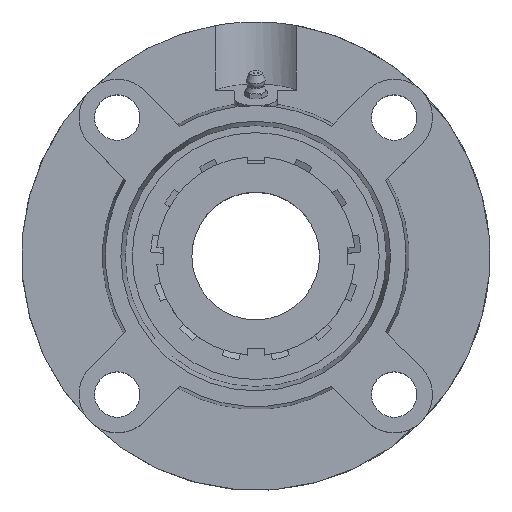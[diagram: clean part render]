
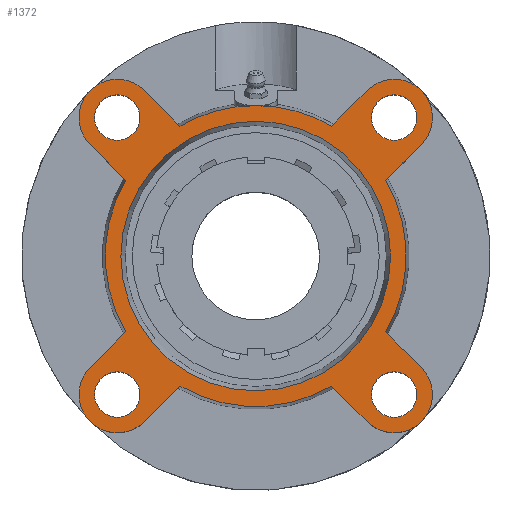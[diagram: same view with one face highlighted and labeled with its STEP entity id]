
A CAD part, top view. The second image highlights one B-rep face of the part: STEP entity #1372.
In plain terms, the highlighted planar face has unit normal (0, 0, 1).
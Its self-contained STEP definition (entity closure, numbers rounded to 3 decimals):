
#181=CARTESIAN_POINT('',(-40.79,-48.79,15.));
#182=VERTEX_POINT('',#181);
#183=CARTESIAN_POINT('',(-48.79,-48.79,15.0));
#184=DIRECTION('',(0.0,0.0,-1.0));
#185=DIRECTION('',(1.0,0.0,0.0));
#186=AXIS2_PLACEMENT_3D('',#183,#184,#185);
#187=CIRCLE('',#186,8.0);
#188=EDGE_CURVE('',#182,#182,#187,.T.);
#209=CARTESIAN_POINT('',(-40.79,48.79,15.));
#210=VERTEX_POINT('',#209);
#211=CARTESIAN_POINT('',(-48.79,48.79,15.));
#212=DIRECTION('',(0.0,0.0,-1.0));
#213=DIRECTION('',(1.0,0.0,0.0));
#214=AXIS2_PLACEMENT_3D('',#211,#212,#213);
#215=CIRCLE('',#214,8.0);
#216=EDGE_CURVE('',#210,#210,#215,.T.);
#237=CARTESIAN_POINT('',(56.79,48.79,15.));
#238=VERTEX_POINT('',#237);
#239=CARTESIAN_POINT('',(48.79,48.79,15.));
#240=DIRECTION('',(0.0,0.0,-1.0));
#241=DIRECTION('',(1.0,0.0,0.0));
#242=AXIS2_PLACEMENT_3D('',#239,#240,#241);
#243=CIRCLE('',#242,8.0);
#244=EDGE_CURVE('',#238,#238,#243,.T.);
#265=CARTESIAN_POINT('',(56.79,-48.79,15.));
#266=VERTEX_POINT('',#265);
#267=CARTESIAN_POINT('',(48.79,-48.79,15.0));
#268=DIRECTION('',(0.0,0.0,-1.0));
#269=DIRECTION('',(1.0,0.0,0.0));
#270=AXIS2_PLACEMENT_3D('',#267,#268,#269);
#271=CIRCLE('',#270,8.0);
#272=EDGE_CURVE('',#266,#266,#271,.T.);
#373=CARTESIAN_POINT('',(0.0,47.5,15.0));
#374=VERTEX_POINT('',#373);
#375=CARTESIAN_POINT('',(0.0,0.,15.));
#376=DIRECTION('',(0.0,0.0,-1.0));
#377=DIRECTION('',(0.0,1.0,0.0));
#378=AXIS2_PLACEMENT_3D('',#375,#376,#377);
#379=CIRCLE('',#378,47.5);
#380=EDGE_CURVE('',#374,#374,#379,.T.);
#670=CARTESIAN_POINT('',(0.,53.,15.0));
#671=VERTEX_POINT('',#670);
#828=CARTESIAN_POINT('',(-26.695,45.786,15.));
#829=VERTEX_POINT('',#828);
#843=CARTESIAN_POINT('',(0.0,0.,15.));
#844=DIRECTION('',(0.0,0.0,1.0));
#845=DIRECTION('',(0.0,-1.0,0.0));
#846=AXIS2_PLACEMENT_3D('',#843,#844,#845);
#847=CIRCLE('',#846,53.);
#848=EDGE_CURVE('',#671,#829,#847,.T.);
#858=CARTESIAN_POINT('',(-26.695,-45.786,15.));
#859=VERTEX_POINT('',#858);
#875=CARTESIAN_POINT('',(-39.244,-58.336,15.));
#876=VERTEX_POINT('',#875);
#877=CARTESIAN_POINT('',(-26.695,-45.786,15.));
#878=DIRECTION('',(-0.707,-0.707,0.));
#879=VECTOR('',#878,17.748);
#880=LINE('',#877,#879);
#881=EDGE_CURVE('',#859,#876,#880,.T.);
#905=CARTESIAN_POINT('',(-45.786,26.695,15.));
#906=VERTEX_POINT('',#905);
#922=CARTESIAN_POINT('',(-58.336,39.244,15.));
#923=VERTEX_POINT('',#922);
#924=CARTESIAN_POINT('',(-45.786,26.695,15.));
#925=DIRECTION('',(-0.707,0.707,0.));
#926=VECTOR('',#925,17.748);
#927=LINE('',#924,#926);
#928=EDGE_CURVE('',#906,#923,#927,.T.);
#952=CARTESIAN_POINT('',(45.786,-26.695,15.));
#953=VERTEX_POINT('',#952);
#969=CARTESIAN_POINT('',(58.336,-39.244,15.));
#970=VERTEX_POINT('',#969);
#971=CARTESIAN_POINT('',(45.786,-26.695,15.));
#972=DIRECTION('',(0.707,-0.707,0.));
#973=VECTOR('',#972,17.748);
#974=LINE('',#971,#973);
#975=EDGE_CURVE('',#953,#970,#974,.T.);
#999=CARTESIAN_POINT('',(26.695,45.786,15.));
#1000=VERTEX_POINT('',#999);
#1014=CARTESIAN_POINT('',(39.244,58.336,15.));
#1015=VERTEX_POINT('',#1014);
#1016=CARTESIAN_POINT('',(26.695,45.786,15.));
#1017=DIRECTION('',(0.707,0.707,0.));
#1018=VECTOR('',#1017,17.748);
#1019=LINE('',#1016,#1018);
#1020=EDGE_CURVE('',#1000,#1015,#1019,.T.);
#1039=CARTESIAN_POINT('',(45.786,26.695,15.));
#1040=VERTEX_POINT('',#1039);
#1062=CARTESIAN_POINT('',(58.336,39.244,15.));
#1063=VERTEX_POINT('',#1062);
#1070=CARTESIAN_POINT('',(58.336,39.244,15.));
#1071=DIRECTION('',(-0.707,-0.707,0.));
#1072=VECTOR('',#1071,17.748);
#1073=LINE('',#1070,#1072);
#1074=EDGE_CURVE('',#1063,#1040,#1073,.T.);
#1084=CARTESIAN_POINT('',(-58.336,-39.244,15.));
#1085=VERTEX_POINT('',#1084);
#1086=CARTESIAN_POINT('',(-48.79,-48.79,15.));
#1087=DIRECTION('',(0.0,0.0,-1.0));
#1088=DIRECTION('',(-0.707,0.707,0.0));
#1089=AXIS2_PLACEMENT_3D('',#1086,#1087,#1088);
#1090=CIRCLE('',#1089,13.5);
#1091=EDGE_CURVE('',#876,#1085,#1090,.T.);
#1126=CARTESIAN_POINT('',(-45.786,-26.695,15.));
#1127=VERTEX_POINT('',#1126);
#1148=CARTESIAN_POINT('',(-58.336,-39.244,15.));
#1149=DIRECTION('',(0.707,0.707,0.));
#1150=VECTOR('',#1149,17.748);
#1151=LINE('',#1148,#1150);
#1152=EDGE_CURVE('',#1085,#1127,#1151,.T.);
#1162=CARTESIAN_POINT('',(-39.244,58.336,15.));
#1163=VERTEX_POINT('',#1162);
#1164=CARTESIAN_POINT('',(-48.79,48.79,15.));
#1165=DIRECTION('',(0.0,0.0,-1.0));
#1166=DIRECTION('',(0.707,0.707,0.0));
#1167=AXIS2_PLACEMENT_3D('',#1164,#1165,#1166);
#1168=CIRCLE('',#1167,13.5);
#1169=EDGE_CURVE('',#923,#1163,#1168,.T.);
#1197=CARTESIAN_POINT('',(-39.244,58.336,15.));
#1198=DIRECTION('',(0.707,-0.707,0.));
#1199=VECTOR('',#1198,17.748);
#1200=LINE('',#1197,#1199);
#1201=EDGE_CURVE('',#1163,#829,#1200,.T.);
#1211=CARTESIAN_POINT('',(39.244,-58.336,15.));
#1212=VERTEX_POINT('',#1211);
#1213=CARTESIAN_POINT('',(48.79,-48.79,15.));
#1214=DIRECTION('',(0.0,0.0,-1.0));
#1215=DIRECTION('',(-0.707,-0.707,0.0));
#1216=AXIS2_PLACEMENT_3D('',#1213,#1214,#1215);
#1217=CIRCLE('',#1216,13.5);
#1218=EDGE_CURVE('',#970,#1212,#1217,.T.);
#1253=CARTESIAN_POINT('',(26.695,-45.786,15.));
#1254=VERTEX_POINT('',#1253);
#1275=CARTESIAN_POINT('',(39.244,-58.336,15.));
#1276=DIRECTION('',(-0.707,0.707,0.));
#1277=VECTOR('',#1276,17.748);
#1278=LINE('',#1275,#1277);
#1279=EDGE_CURVE('',#1212,#1254,#1278,.T.);
#1289=CARTESIAN_POINT('',(48.79,48.79,15.));
#1290=DIRECTION('',(0.0,0.0,-1.0));
#1291=DIRECTION('',(0.707,-0.707,0.0));
#1292=AXIS2_PLACEMENT_3D('',#1289,#1290,#1291);
#1293=CIRCLE('',#1292,13.5);
#1294=EDGE_CURVE('',#1015,#1063,#1293,.T.);
#1309=CARTESIAN_POINT('',(0.0,-26.5,15.));
#1310=DIRECTION('',(0.0,0.0,1.0));
#1311=DIRECTION('',(1.0,0.0,0.0));
#1312=AXIS2_PLACEMENT_3D('',#1309,#1310,#1311);
#1313=PLANE('',#1312);
#1314=CARTESIAN_POINT('',(0.0,0.,15.));
#1315=DIRECTION('',(0.0,0.0,1.0));
#1316=DIRECTION('',(0.0,-1.0,0.0));
#1317=AXIS2_PLACEMENT_3D('',#1314,#1315,#1316);
#1318=CIRCLE('',#1317,53.);
#1319=EDGE_CURVE('',#859,#1254,#1318,.T.);
#1320=ORIENTED_EDGE('',*,*,#1319,.T.);
#1321=ORIENTED_EDGE('',*,*,#1279,.F.);
#1322=ORIENTED_EDGE('',*,*,#1218,.F.);
#1323=ORIENTED_EDGE('',*,*,#975,.F.);
#1324=CARTESIAN_POINT('',(0.0,0.,15.));
#1325=DIRECTION('',(0.0,0.0,1.0));
#1326=DIRECTION('',(0.0,-1.0,0.0));
#1327=AXIS2_PLACEMENT_3D('',#1324,#1325,#1326);
#1328=CIRCLE('',#1327,53.);
#1329=EDGE_CURVE('',#953,#1040,#1328,.T.);
#1330=ORIENTED_EDGE('',*,*,#1329,.T.);
#1331=ORIENTED_EDGE('',*,*,#1074,.F.);
#1332=ORIENTED_EDGE('',*,*,#1294,.F.);
#1333=ORIENTED_EDGE('',*,*,#1020,.F.);
#1334=CARTESIAN_POINT('',(0.0,0.,15.));
#1335=DIRECTION('',(0.0,0.0,1.0));
#1336=DIRECTION('',(0.0,-1.0,0.0));
#1337=AXIS2_PLACEMENT_3D('',#1334,#1335,#1336);
#1338=CIRCLE('',#1337,53.);
#1339=EDGE_CURVE('',#1000,#671,#1338,.T.);
#1340=ORIENTED_EDGE('',*,*,#1339,.T.);
#1341=ORIENTED_EDGE('',*,*,#848,.T.);
#1342=ORIENTED_EDGE('',*,*,#1201,.F.);
#1343=ORIENTED_EDGE('',*,*,#1169,.F.);
#1344=ORIENTED_EDGE('',*,*,#928,.F.);
#1345=CARTESIAN_POINT('',(0.0,0.,15.));
#1346=DIRECTION('',(0.0,0.0,1.0));
#1347=DIRECTION('',(0.0,-1.0,0.0));
#1348=AXIS2_PLACEMENT_3D('',#1345,#1346,#1347);
#1349=CIRCLE('',#1348,53.);
#1350=EDGE_CURVE('',#906,#1127,#1349,.T.);
#1351=ORIENTED_EDGE('',*,*,#1350,.T.);
#1352=ORIENTED_EDGE('',*,*,#1152,.F.);
#1353=ORIENTED_EDGE('',*,*,#1091,.F.);
#1354=ORIENTED_EDGE('',*,*,#881,.F.);
#1355=EDGE_LOOP('',(#1320,#1321,#1322,#1323,#1330,#1331,#1332,#1333,#1340,#1341,#1342,#1343,#1344,#1351,#1352,#1353,#1354));
#1356=FACE_OUTER_BOUND('',#1355,.T.);
#1357=ORIENTED_EDGE('',*,*,#188,.T.);
#1358=EDGE_LOOP('',(#1357));
#1359=FACE_BOUND('',#1358,.T.);
#1360=ORIENTED_EDGE('',*,*,#216,.T.);
#1361=EDGE_LOOP('',(#1360));
#1362=FACE_BOUND('',#1361,.T.);
#1363=ORIENTED_EDGE('',*,*,#244,.T.);
#1364=EDGE_LOOP('',(#1363));
#1365=FACE_BOUND('',#1364,.T.);
#1366=ORIENTED_EDGE('',*,*,#272,.T.);
#1367=EDGE_LOOP('',(#1366));
#1368=FACE_BOUND('',#1367,.T.);
#1369=ORIENTED_EDGE('',*,*,#380,.T.);
#1370=EDGE_LOOP('',(#1369));
#1371=FACE_BOUND('',#1370,.T.);
#1372=ADVANCED_FACE('',(#1356,#1359,#1362,#1365,#1368,#1371),#1313,.T.);
